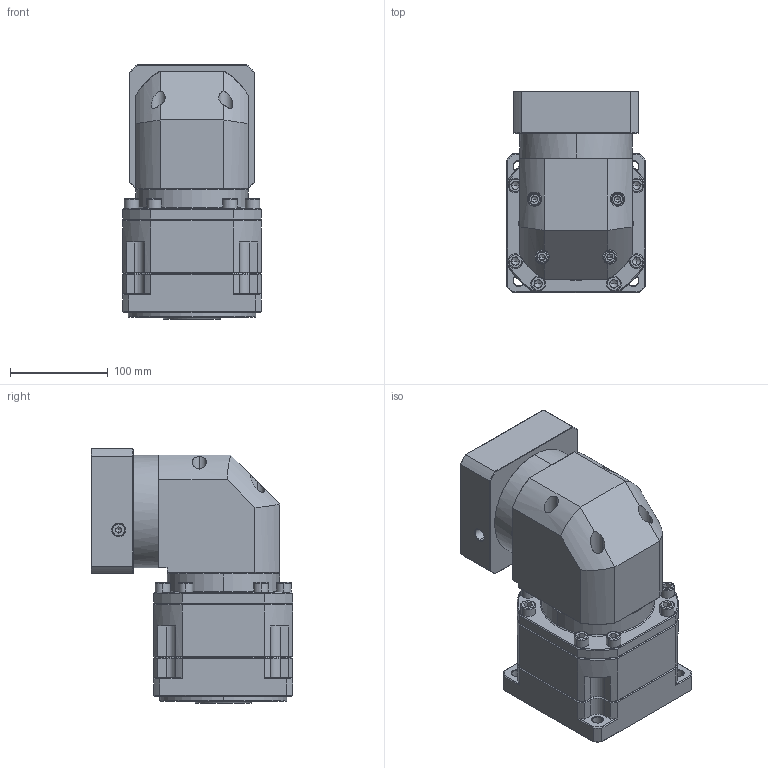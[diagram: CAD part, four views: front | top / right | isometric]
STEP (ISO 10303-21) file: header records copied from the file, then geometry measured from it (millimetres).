
FILE_DESCRIPTION (( 'STEP AP214' ), '1' );
FILE_NAME ('ZBR142A-K35-L2-P2-22-110-145-M8.step', '2023-09-02T08:12:56', ( '' ), ( '' ), 'SwSTEP 2.0', 'SolidWorks 2016', '' );
FILE_SCHEMA (( 'AUTOMOTIVE_DESIGN' ));
Length unit declared in the file: millimetre
Products named in the file (1): ZBR142A-K35-L2-P2-22-110-145-M8
Bounding box: 142 x 205.9 x 260.2 mm (x, y, z)
Volume: 4316668.9 mm3; surface area: 318663.8 mm2
Topology: 6 solids, 6 shells, 2531 faces, 6585 edges, 4179 vertices
Faces by surface type: plane 1225, cylinder 465, bspline 404, cone 393, torus 44
Entity records: 130491 total; most frequent: CARTESIAN_POINT 43849, ORIENTED_EDGE 13066, DIRECTION 10731, EDGE_CURVE 6533, LINE 4215, VECTOR 4215, VERTEX_POINT 4179, AXIS2_PLACEMENT_3D 3258
